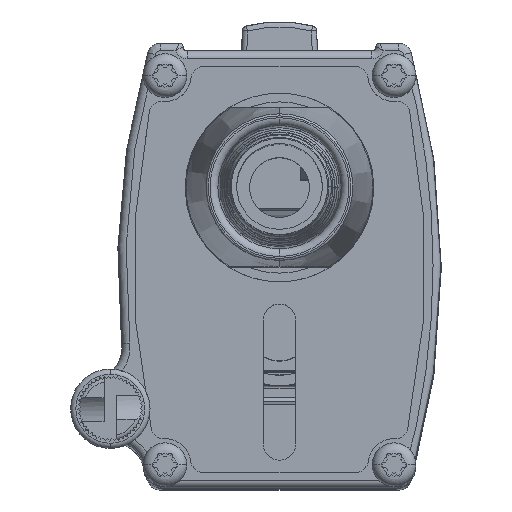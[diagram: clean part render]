
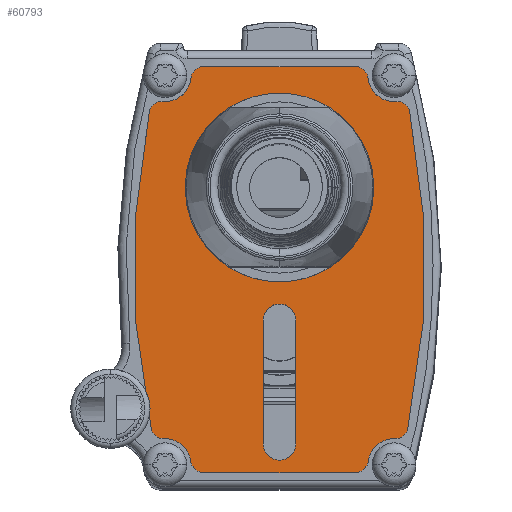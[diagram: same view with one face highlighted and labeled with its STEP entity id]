
A CAD part, top view. The second image highlights one B-rep face of the part: STEP entity #60793.
In plain terms, the highlighted planar face has unit normal (0, 0, 1).
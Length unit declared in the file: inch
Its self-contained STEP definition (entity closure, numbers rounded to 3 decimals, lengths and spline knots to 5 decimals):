
#59624=CARTESIAN_POINT('',(-0.45112,0.58041,0.0646));
#59625=DIRECTION('',(0.,0.,1.));
#59626=DIRECTION('',(0.074,0.997,0.));
#59627=AXIS2_PLACEMENT_3D('',#59624,#59625,#59626);
#59629=CARTESIAN_POINT('',(-0.44,0.73,0.0646));
#59630=DIRECTION('',(0.,0.,-1.));
#59631=DIRECTION('',(0.995,-0.1,0.));
#59632=AXIS2_PLACEMENT_3D('',#59629,#59630,#59631);
#59634=CARTESIAN_POINT('',(-0.29075,0.715,0.0646));
#59635=DIRECTION('',(0.,0.,1.));
#59636=DIRECTION('',(0.,1.,0.));
#59637=AXIS2_PLACEMENT_3D('',#59634,#59635,#59636);
#59639=DIRECTION('',(-1.,0.,0.));
#59640=VECTOR('',#59639,0.5815);
#59641=CARTESIAN_POINT('',(0.29075,0.765,0.0646));
#59642=LINE('',#59641,#59640);
#59643=CARTESIAN_POINT('',(0.29075,0.715,0.0646));
#59644=DIRECTION('',(0.,0.,1.));
#59645=DIRECTION('',(0.995,0.1,0.));
#59646=AXIS2_PLACEMENT_3D('',#59643,#59644,#59645);
#59648=CARTESIAN_POINT('',(0.44,0.73,0.0646));
#59649=DIRECTION('',(0.,0.,-1.));
#59650=DIRECTION('',(0.074,-0.997,0.));
#59651=AXIS2_PLACEMENT_3D('',#59648,#59649,#59650);
#59653=CARTESIAN_POINT('',(0.45112,0.58041,0.0646));
#59654=DIRECTION('',(0.,0.,1.));
#59655=DIRECTION('',(0.98,0.201,0.));
#59656=AXIS2_PLACEMENT_3D('',#59653,#59654,#59655);
#59658=CARTESIAN_POINT('',(-2.38,0.,0.0646));
#59659=DIRECTION('',(0.,0.,1.));
#59660=DIRECTION('',(0.977,-0.213,0.));
#59661=AXIS2_PLACEMENT_3D('',#59658,#59659,#59660);
#59663=CARTESIAN_POINT('',(0.44379,-0.61505,0.0646));
#59664=DIRECTION('',(0.,0.,1.));
#59665=DIRECTION('',(-0.025,-1.,0.));
#59666=AXIS2_PLACEMENT_3D('',#59663,#59664,#59665);
#59668=CARTESIAN_POINT('',(0.44,-0.765,0.0646));
#59669=DIRECTION('',(0.,0.,-1.));
#59670=DIRECTION('',(-0.991,0.133,0.));
#59671=AXIS2_PLACEMENT_3D('',#59668,#59669,#59670);
#59673=CARTESIAN_POINT('',(0.29134,-0.745,0.0646));
#59674=DIRECTION('',(0.,0.,1.));
#59675=DIRECTION('',(0.,-1.,0.));
#59676=AXIS2_PLACEMENT_3D('',#59673,#59674,#59675);
#59678=DIRECTION('',(1.,0.,0.));
#59679=VECTOR('',#59678,0.58268);
#59680=CARTESIAN_POINT('',(-0.29134,-0.795,0.0646));
#59681=LINE('',#59680,#59679);
#59682=CARTESIAN_POINT('',(-0.29134,-0.745,0.0646));
#59683=DIRECTION('',(0.,0.,1.));
#59684=DIRECTION('',(-0.991,-0.133,0.));
#59685=AXIS2_PLACEMENT_3D('',#59682,#59683,#59684);
#59687=CARTESIAN_POINT('',(-0.44,-0.765,0.0646));
#59688=DIRECTION('',(0.,0.,-1.));
#59689=DIRECTION('',(-0.025,1.,0.));
#59690=AXIS2_PLACEMENT_3D('',#59687,#59688,#59689);
#59692=CARTESIAN_POINT('',(-0.44379,-0.61505,0.0646));
#59693=DIRECTION('',(0.,0.,1.));
#59694=DIRECTION('',(-0.977,-0.213,0.));
#59695=AXIS2_PLACEMENT_3D('',#59692,#59693,#59694);
#59697=CARTESIAN_POINT('',(2.38,0.,0.0646));
#59698=DIRECTION('',(0.,0.,1.));
#59699=DIRECTION('',(-0.98,0.201,0.));
#59700=AXIS2_PLACEMENT_3D('',#59697,#59698,#59699);
#59702=DIRECTION('',(0.,1.,0.));
#59703=VECTOR('',#59702,0.23238);
#59704=CARTESIAN_POINT('',(-0.2575,0.18381,0.0646));
#59705=LINE('',#59704,#59703);
#59706=CARTESIAN_POINT('',(0.,0.3,0.0646));
#59707=DIRECTION('',(0.,0.,-1.));
#59708=DIRECTION('',(-0.912,0.411,0.));
#59709=AXIS2_PLACEMENT_3D('',#59706,#59707,#59708);
#59711=DIRECTION('',(0.,1.,0.));
#59712=VECTOR('',#59711,0.475);
#59713=CARTESIAN_POINT('',(-0.0625,-0.685,0.0646));
#59714=LINE('',#59713,#59712);
#59715=CARTESIAN_POINT('',(0.,-0.685,0.0646));
#59716=DIRECTION('',(0.,0.,-1.));
#59717=DIRECTION('',(1.,0.,0.));
#59718=AXIS2_PLACEMENT_3D('',#59715,#59716,#59717);
#59720=DIRECTION('',(0.,-1.,0.));
#59721=VECTOR('',#59720,0.475);
#59722=CARTESIAN_POINT('',(0.0625,-0.21,0.0646));
#59723=LINE('',#59722,#59721);
#59724=CARTESIAN_POINT('',(0.,-0.21,0.0646));
#59725=DIRECTION('',(0.,0.,-1.));
#59726=DIRECTION('',(-1.,0.,0.));
#59727=AXIS2_PLACEMENT_3D('',#59724,#59725,#59726);
#60220=CARTESIAN_POINT('',(-0.44741,0.63027,0.0646));
#60221=CARTESIAN_POINT('',(-0.5001,0.59045,0.0646));
#60222=VERTEX_POINT('',#60220);
#60223=VERTEX_POINT('',#60221);
#60228=CARTESIAN_POINT('',(-0.29075,0.765,0.0646));
#60229=CARTESIAN_POINT('',(-0.3405,0.72,0.0646));
#60230=VERTEX_POINT('',#60228);
#60231=VERTEX_POINT('',#60229);
#60236=CARTESIAN_POINT('',(0.3405,0.72,0.0646));
#60237=CARTESIAN_POINT('',(0.29075,0.765,0.0646));
#60238=VERTEX_POINT('',#60236);
#60239=VERTEX_POINT('',#60237);
#60244=CARTESIAN_POINT('',(0.5001,0.59045,0.0646));
#60245=CARTESIAN_POINT('',(0.44741,0.63027,0.0646));
#60246=VERTEX_POINT('',#60244);
#60247=VERTEX_POINT('',#60245);
#60252=CARTESIAN_POINT('',(0.44253,-0.66503,0.0646));
#60253=CARTESIAN_POINT('',(0.49265,-0.62569,0.0646));
#60254=VERTEX_POINT('',#60252);
#60255=VERTEX_POINT('',#60253);
#60260=CARTESIAN_POINT('',(0.29134,-0.795,0.0646));
#60261=CARTESIAN_POINT('',(0.34089,-0.75167,0.0646));
#60262=VERTEX_POINT('',#60260);
#60263=VERTEX_POINT('',#60261);
#60268=CARTESIAN_POINT('',(-0.34089,-0.75167,0.0646));
#60269=CARTESIAN_POINT('',(-0.29134,-0.795,0.0646));
#60270=VERTEX_POINT('',#60268);
#60271=VERTEX_POINT('',#60269);
#60276=CARTESIAN_POINT('',(-0.49265,-0.62569,0.0646));
#60277=CARTESIAN_POINT('',(-0.44253,-0.66503,0.0646));
#60278=VERTEX_POINT('',#60276);
#60279=VERTEX_POINT('',#60277);
#60361=CARTESIAN_POINT('',(-0.2575,0.18381,0.0646));
#60362=CARTESIAN_POINT('',(-0.2575,0.41619,0.0646));
#60363=VERTEX_POINT('',#60361);
#60364=VERTEX_POINT('',#60362);
#60373=CARTESIAN_POINT('',(-0.0625,-0.685,0.0646));
#60374=CARTESIAN_POINT('',(-0.0625,-0.21,0.0646));
#60375=VERTEX_POINT('',#60373);
#60376=VERTEX_POINT('',#60374);
#60377=CARTESIAN_POINT('',(0.0625,-0.21,0.0646));
#60378=CARTESIAN_POINT('',(0.0625,-0.685,0.0646));
#60379=VERTEX_POINT('',#60377);
#60380=VERTEX_POINT('',#60378);
#60740=CARTESIAN_POINT('',(0.,0.,0.0646));
#60741=DIRECTION('',(0.,0.,1.));
#60742=DIRECTION('',(1.,0.,0.));
#60743=AXIS2_PLACEMENT_3D('',#60740,#60741,#60742);
#60744=PLANE('',#60743);
#60746=ORIENTED_EDGE('',*,*,#60745,.F.);
#60748=ORIENTED_EDGE('',*,*,#60747,.F.);
#60749=ORIENTED_EDGE('',*,*,#60731,.F.);
#60750=ORIENTED_EDGE('',*,*,#60721,.F.);
#60752=ORIENTED_EDGE('',*,*,#60751,.F.);
#60754=ORIENTED_EDGE('',*,*,#60753,.F.);
#60756=ORIENTED_EDGE('',*,*,#60755,.F.);
#60758=ORIENTED_EDGE('',*,*,#60757,.F.);
#60760=ORIENTED_EDGE('',*,*,#60759,.F.);
#60762=ORIENTED_EDGE('',*,*,#60761,.F.);
#60764=ORIENTED_EDGE('',*,*,#60763,.F.);
#60766=ORIENTED_EDGE('',*,*,#60765,.F.);
#60768=ORIENTED_EDGE('',*,*,#60767,.F.);
#60770=ORIENTED_EDGE('',*,*,#60769,.F.);
#60772=ORIENTED_EDGE('',*,*,#60771,.F.);
#60774=ORIENTED_EDGE('',*,*,#60773,.F.);
#60775=EDGE_LOOP('',(#60746,#60748,#60749,#60750,#60752,#60754,#60756,#60758,
#60760,#60762,#60764,#60766,#60768,#60770,#60772,#60774));
#60776=FACE_OUTER_BOUND('',#60775,.F.);
#60778=ORIENTED_EDGE('',*,*,#60777,.F.);
#60780=ORIENTED_EDGE('',*,*,#60779,.F.);
#60781=EDGE_LOOP('',(#60778,#60780));
#60782=FACE_BOUND('',#60781,.F.);
#60784=ORIENTED_EDGE('',*,*,#60783,.F.);
#60786=ORIENTED_EDGE('',*,*,#60785,.F.);
#60788=ORIENTED_EDGE('',*,*,#60787,.F.);
#60790=ORIENTED_EDGE('',*,*,#60789,.F.);
#60791=EDGE_LOOP('',(#60784,#60786,#60788,#60790));
#60792=FACE_BOUND('',#60791,.F.);
#60793=ADVANCED_FACE('',(#60776,#60782,#60792),#60744,.T.);
#59628=CIRCLE('',#59627,0.05);
#59633=CIRCLE('',#59632,0.1);
#59638=CIRCLE('',#59637,0.05);
#59647=CIRCLE('',#59646,0.05);
#59652=CIRCLE('',#59651,0.1);
#59657=CIRCLE('',#59656,0.05);
#59662=CIRCLE('',#59661,2.94);
#59667=CIRCLE('',#59666,0.05);
#59672=CIRCLE('',#59671,0.1);
#59677=CIRCLE('',#59676,0.05);
#59686=CIRCLE('',#59685,0.05);
#59691=CIRCLE('',#59690,0.1);
#59696=CIRCLE('',#59695,0.05);
#59701=CIRCLE('',#59700,2.94);
#59710=CIRCLE('',#59709,0.2825);
#59719=CIRCLE('',#59718,0.0625);
#59728=CIRCLE('',#59727,0.0625);
#60721=EDGE_CURVE('',#60239,#60230,#59642,.T.);
#60731=EDGE_CURVE('',#60230,#60231,#59638,.T.);
#60745=EDGE_CURVE('',#60222,#60223,#59628,.T.);
#60747=EDGE_CURVE('',#60231,#60222,#59633,.T.);
#60751=EDGE_CURVE('',#60238,#60239,#59647,.T.);
#60753=EDGE_CURVE('',#60247,#60238,#59652,.T.);
#60755=EDGE_CURVE('',#60246,#60247,#59657,.T.);
#60757=EDGE_CURVE('',#60255,#60246,#59662,.T.);
#60759=EDGE_CURVE('',#60254,#60255,#59667,.T.);
#60761=EDGE_CURVE('',#60263,#60254,#59672,.T.);
#60763=EDGE_CURVE('',#60262,#60263,#59677,.T.);
#60765=EDGE_CURVE('',#60271,#60262,#59681,.T.);
#60767=EDGE_CURVE('',#60270,#60271,#59686,.T.);
#60769=EDGE_CURVE('',#60279,#60270,#59691,.T.);
#60771=EDGE_CURVE('',#60278,#60279,#59696,.T.);
#60773=EDGE_CURVE('',#60223,#60278,#59701,.T.);
#60777=EDGE_CURVE('',#60363,#60364,#59705,.T.);
#60779=EDGE_CURVE('',#60364,#60363,#59710,.T.);
#60783=EDGE_CURVE('',#60375,#60376,#59714,.T.);
#60785=EDGE_CURVE('',#60380,#60375,#59719,.T.);
#60787=EDGE_CURVE('',#60379,#60380,#59723,.T.);
#60789=EDGE_CURVE('',#60376,#60379,#59728,.T.);
